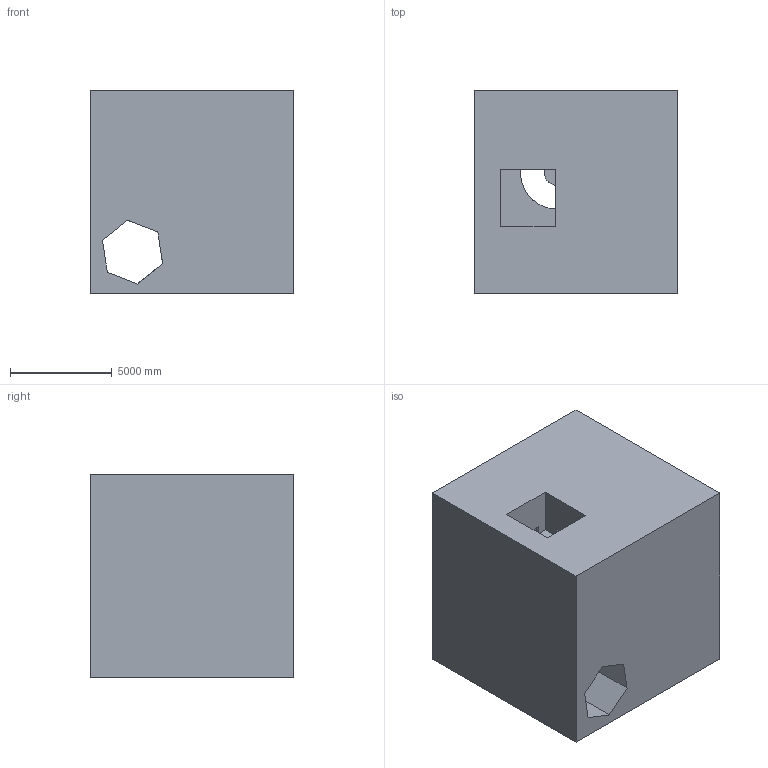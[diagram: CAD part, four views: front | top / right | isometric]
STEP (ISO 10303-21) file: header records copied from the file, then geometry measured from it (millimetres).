
FILE_DESCRIPTION (( 'STEP AP203' ), '1' );
FILE_NAME ('139.STEP', '2022-09-05T15:41:39', ( 'user' ), ( '' ), 'SwSTEP 2.0', 'SolidWorks 2021', '' );
FILE_SCHEMA (( 'CONFIG_CONTROL_DESIGN' ));
Length unit declared in the file: centimetre
Products named in the file (1): 139
Bounding box: 10000 x 10000 x 10000 mm (x, y, z)
Volume: 833516570275.4 mm3; surface area: 784635859 mm2
Topology: 1 solids, 1 shells, 31 faces, 96 edges, 64 vertices
Faces by surface type: plane 27, cylinder 4
Entity records: 1151 total; most frequent: CARTESIAN_POINT 228, ORIENTED_EDGE 192, DIRECTION 160, EDGE_CURVE 96, VECTOR 72, LINE 72, VERTEX_POINT 64, AXIS2_PLACEMENT_3D 44
